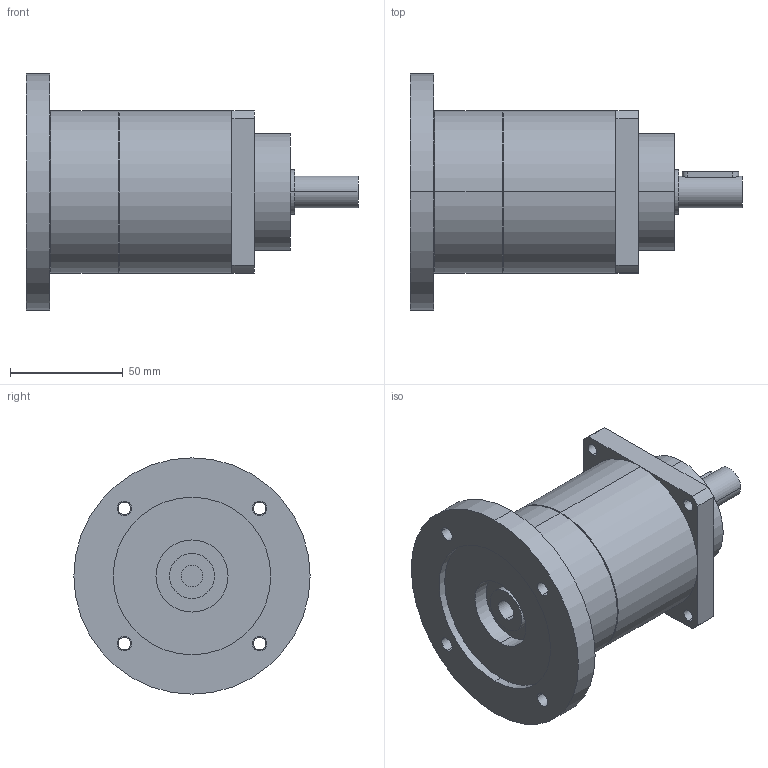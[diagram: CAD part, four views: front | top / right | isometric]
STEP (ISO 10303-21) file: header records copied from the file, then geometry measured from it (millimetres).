
FILE_DESCRIPTION(('CoCreate Modeling STEP Export'),'2;1');
FILE_NAME('GPT75_ig-9-12-16-20-25-28-35-40-50-70-100_14_B5T_9.52_P05.stp','2014-08-27T13:42:15',(''),(''),'CoCreate Modeling STEP processor for AP214 (Solid Model)','CoCreate Modeling 16.00C 25-Feb-2009 (C) Parametric Technology GmbH','');
FILE_SCHEMA(('AUTOMOTIVE_DESIGN { 1 0 10303 214 1 1 1 1 }'));
Length unit declared in the file: millimetre
Products named in the file (2): GPT75_ig-9-12-16-20-25-28-35-40-50-70-100_14_B5T_9.52_P05
Assembly tree (1 placements, depth 2):
  GPT75_ig-9-12-16-20-25-28-35-40-50-70-100_14_B5T_9.52_P05
    GPT75_ig-9-12-16-20-25-28-35-40-50-70-100_14_B5T_9.52_P05
Bounding box: 147.5 x 105 x 105 mm (x, y, z)
Volume: 488576.1 mm3; surface area: 52429.2 mm2
Topology: 1 solids, 1 shells, 71 faces, 178 edges, 119 vertices
Faces by surface type: cylinder 44, plane 23, cone 4
Entity records: 2277 total; most frequent: CARTESIAN_POINT 682, ORIENTED_EDGE 356, DIRECTION 280, EDGE_CURVE 178, VERTEX_POINT 119, AXIS2_PLACEMENT_3D 105, EDGE_LOOP 97, FACE_OUTER_BOUND 71
